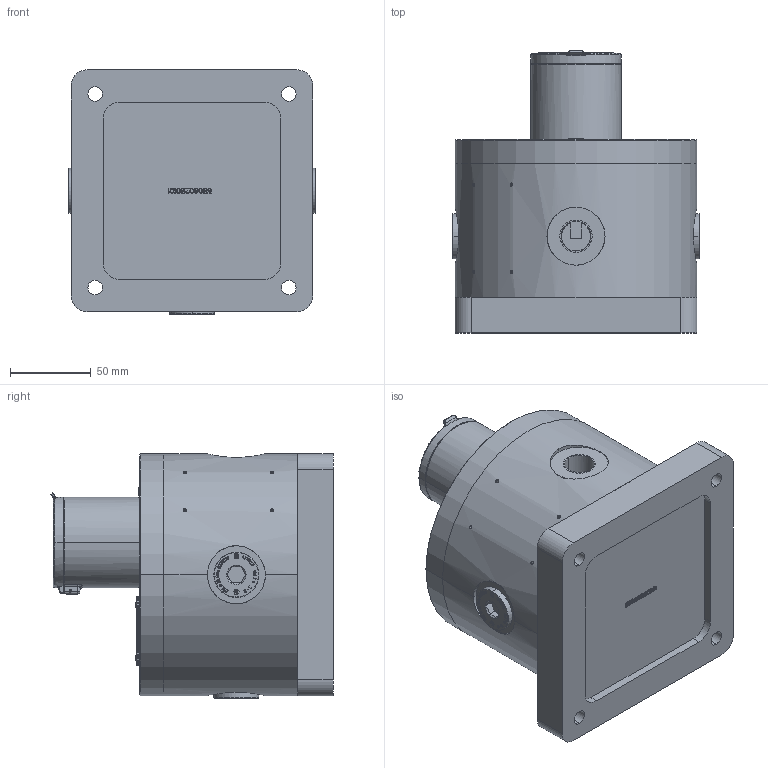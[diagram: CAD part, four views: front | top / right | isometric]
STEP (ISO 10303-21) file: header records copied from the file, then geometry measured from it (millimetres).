
FILE_DESCRIPTION((''),'2;1');
FILE_NAME('4-PB150_ASM','2015-12-21T',('Administrator'),(''),'PRO/ENGINEER BY PARAMETRIC TECHNOLOGY CORPORATION, 2008090','PRO/ENGINEER BY PARAMETRIC TECHNOLOGY CORPORATION, 2008090','');
FILE_SCHEMA(('CONFIG_CONTROL_DESIGN'));
Length unit declared in the file: millimetre
Products named in the file (31): 55080450102; 55080110103; 50080110106; 55080110105; 50080110107; 50080110109; 50080110108; KEY-HOLE_ASM; 50080110104; 50080180238; PUSH_ASM; 50080110206; SWITCH-VS10N061C2; 50080310303-M3-15; 50080310304; SWITCH_ASM; 55060250101; 50080150201; 50080150202; 50080110203; COVER-PPS_ASM; 50060120205; TERMINAL-WDML; TERMIAL-BASE_ASM; 50000010103; 50000010301-M5; 50500280237; 5686021003-M2; 5686031006-M3; 55100110920; 4-PB150_ASM
Assembly tree (42 placements, depth 4):
  4-PB150_ASM
    55080450102
    PUSH_ASM
      55080110103
      50080110106
      55080110105
      50080110107
      KEY-HOLE_ASM
        50080110109
        50080110108
      50080110104
      50080180238
    SWITCH_ASM
      50080110206
      SWITCH-VS10N061C2
      50080310303-M3-15  x2
      50080310304  x2
    55060250101
    COVER-PPS_ASM
      50080150201
      50080150202
      50080110203
    TERMIAL-BASE_ASM
      50060120205
      TERMINAL-WDML
    50000010103
    50000010301-M5  x6
    50500280237
    5686021003-M2  x4
    5686031006-M3
    55100110920  x3
Bounding box: 153 x 175.03 x 151.5 mm (x, y, z)
Volume: 1576263.2 mm3; surface area: 320878.8 mm2
Topology: 40 solids, 105 shells, 6877 faces, 18644 edges, 12261 vertices
Faces by surface type: plane 5559, cylinder 842, cone 332, torus 87, bspline 53, sphere 4
Entity records: 141828 total; most frequent: CARTESIAN_POINT 31065, ORIENTED_EDGE 23056, DIRECTION 21937, EDGE_CURVE 11638, VECTOR 9721, LINE 9721, VERTEX_POINT 7649, AXIS2_PLACEMENT_3D 6108
